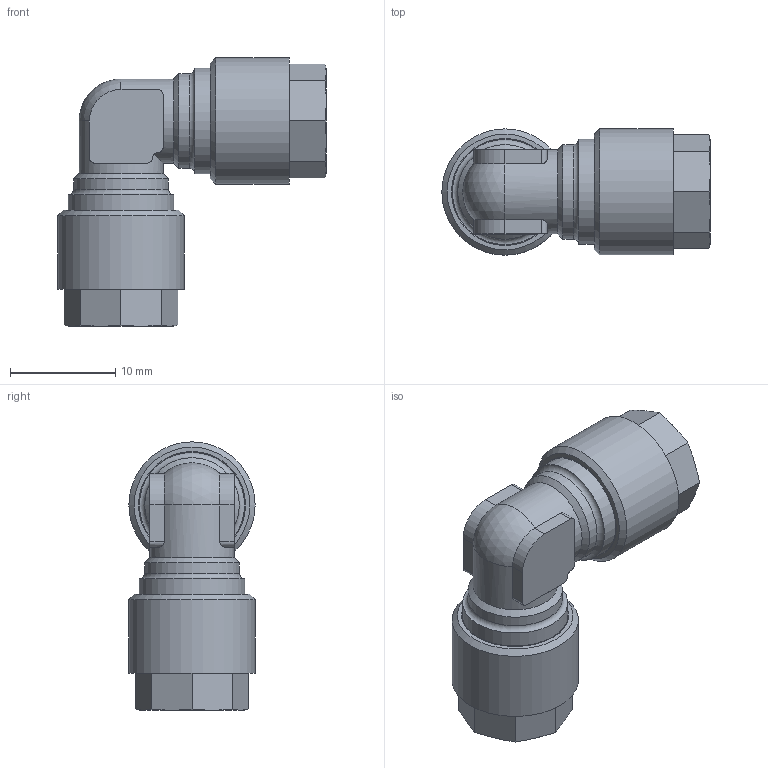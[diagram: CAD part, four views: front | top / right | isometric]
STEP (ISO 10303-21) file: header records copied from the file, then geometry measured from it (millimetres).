
FILE_DESCRIPTION(/* description */ (''),/* implementation_level */ '2;1');
FILE_NAME(/* name */ '11303_306_6-4_10.06.16',/* time_stamp */ '2016-03-10T11:14:01+01:00',/* author */ (''),/* organization */ (''),/* preprocessor_version */ 'ST-DEVELOPER v14',/* originating_system */ 'HiCAD 2013 1802.4 Build 509',/* authorisation */ '');
FILE_SCHEMA (('AUTOMOTIVE_DESIGN { 1 0 10303 214 1 1 1 1 }'));
Length unit declared in the file: millimetre
Products named in the file (4): Root; R11303; 17005
Assembly tree (3 placements, depth 2):
  Root
    R11303
    17005
    17005
Bounding box: 25.5 x 12 x 25.5 mm (x, y, z)
Volume: 2543.5 mm3; surface area: 3143.3 mm2
Topology: 3 solids, 3 shells, 114 faces, 276 edges, 174 vertices
Faces by surface type: plane 46, cylinder 32, cone 31, torus 4, sphere 1
Full cylindrical faces by diameter (mm): 3 x2, 4.7 x2, 6 x2, 8 x2, 8.773 x4, 9 x2, 10 x4, 12 x2
Entity records: 6821 total; most frequent: CARTESIAN_POINT 2268, DIRECTION 562, PRESENTATION_STYLE_ASSIGNMENT 417, COLOUR_RGB 415, DRAUGHTING_PRE_DEFINED_CURVE_FONT 414, CURVE_STYLE 414, OVER_RIDING_STYLED_ITEM 414, ORIENTED_EDGE 414
